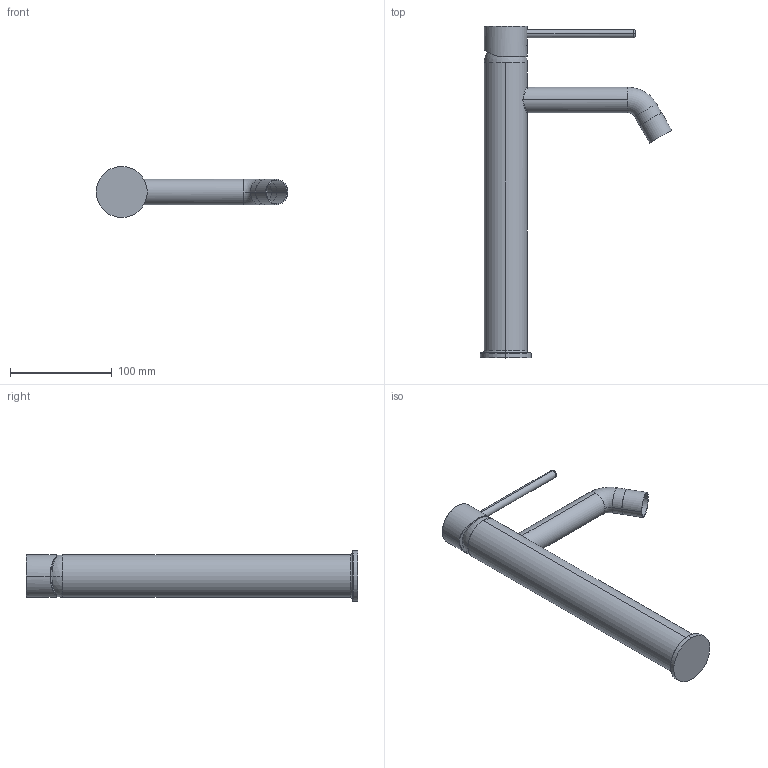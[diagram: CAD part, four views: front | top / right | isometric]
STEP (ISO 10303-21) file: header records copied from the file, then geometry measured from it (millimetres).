
FILE_DESCRIPTION (( 'STEP AP203' ), '1' );
FILE_NAME ('78PZ211LL.STEP', '2019-12-13T10:11:41', ( '' ), ( '' ), 'SwSTEP 2.0', 'SolidWorks 2019', '' );
FILE_SCHEMA (( 'CONFIG_CONTROL_DESIGN' ));
Length unit declared in the file: millimetre
Products named in the file (1): 78PZ211LL
Bounding box: 187.83 x 325.5 x 50 mm (x, y, z)
Volume: 470239.3 mm3; surface area: 75396.3 mm2
Topology: 4 solids, 4 shells, 161 faces, 412 edges, 268 vertices
Faces by surface type: plane 76, cylinder 35, bspline 27, torus 21, sphere 2
Entity records: 6732 total; most frequent: CARTESIAN_POINT 3027, ORIENTED_EDGE 824, DIRECTION 654, EDGE_CURVE 412, VERTEX_POINT 268, AXIS2_PLACEMENT_3D 266, EDGE_LOOP 172, FACE_OUTER_BOUND 161
